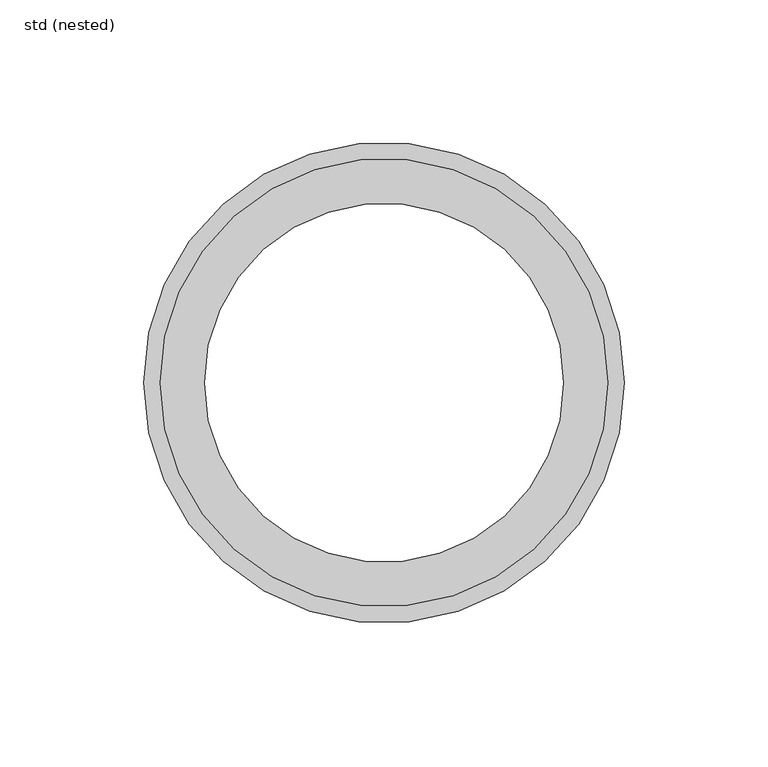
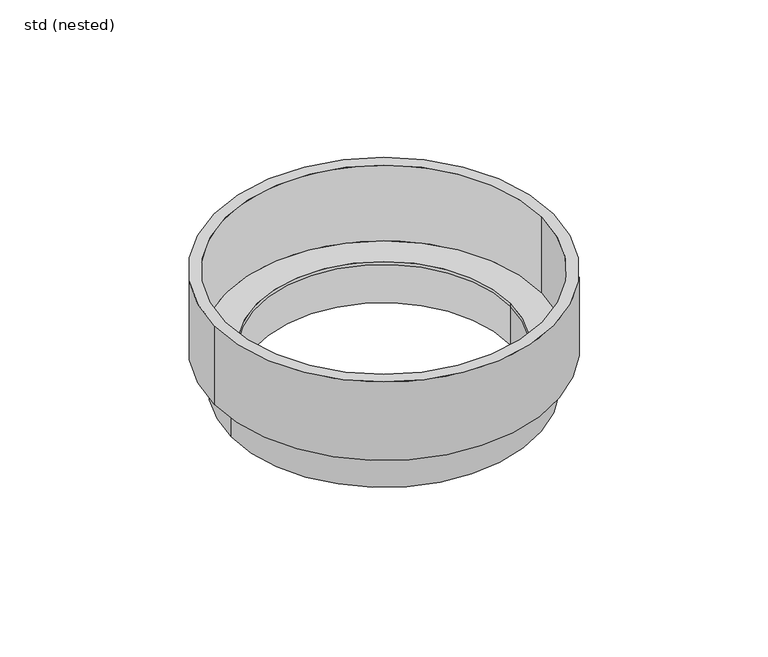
"""IFC4 building model written with IfcOpenShell, lengths in millimetres: sanitary terminal geometry, ZZZ_do not use_PF_CI_WPB_extension ring for Passavant Spin_ACO : std (nested)."""

from ifc_helpers import new_model, si_unit, frame, origin, origin_with_axes, place, context, project, spatial, polyline, circle_curve, source, transform, mapped, element, save
from ifc_brep_helpers import plane_surface, cylinder_surface, revolved_surface, advanced_brep


def std_nested_0d2efb1d(model_context):
    return source(origin(), model_context, "Body", "AdvancedBrep", [
        advanced_brep(
        [(-78.0, 0.0, -39.5), (78.0, 0.0, -39.5), (-62.5, 0.0, -39.5), (62.5, 0.0, -39.5), (-83.735, 0.0, -41.0), (83.735, 0.0, -41.0), (-75.25, 0.0, -41.0), (75.25, 0.0, -41.0), (-62.5, 0.0, -41.0), (62.5, 0.0, -41.0), (-75.25, 0.0, -61.0), (75.25, 0.0, -61.0), (-62.5, 0.0, -61.0), (62.5, 0.0, -61.0), (-83.735, 0.0, 0.0), (83.735, 0.0, 0.0), (-78.0, 0.0, 0.0), (78.0, 0.0, 0.0)],
        [
            (0, 1, circle_curve(frame((0.0, 0.0, -39.5), z_axis=(0.0, 0.0, 1.0), x_axis=(1.0, 0.0, 0.0)), 78.0)),
            (1, 0, circle_curve(frame((0.0, 0.0, -39.5), z_axis=(0.0, 0.0, 1.0), x_axis=(1.0, 0.0, 0.0)), 78.0)),
            (2, 3, circle_curve(frame((0.0, 0.0, -39.5), z_axis=(0.0, 0.0, -1.0), x_axis=(1.0, 0.0, 0.0)), 62.5)),
            (3, 2, circle_curve(frame((0.0, 0.0, -39.5), z_axis=(0.0, 0.0, -1.0), x_axis=(1.0, 0.0, 0.0)), 62.5)),
            (4, 5, circle_curve(frame((0.0, 0.0, -41.0), z_axis=(0.0, 0.0, -1.0), x_axis=(1.0, 0.0, 0.0)), 83.735)),
            (5, 4, circle_curve(frame((0.0, 0.0, -41.0), z_axis=(0.0, 0.0, -1.0), x_axis=(1.0, 0.0, 0.0)), 83.735)),
            (6, 7, circle_curve(frame((0.0, 0.0, -41.0), z_axis=(0.0, 0.0, 1.0), x_axis=(1.0, 0.0, 0.0)), 75.25)),
            (7, 6, circle_curve(frame((0.0, 0.0, -41.0), z_axis=(0.0, 0.0, 1.0), x_axis=(1.0, 0.0, 0.0)), 75.25)),
            (2, 8),
            (8, 9, circle_curve(frame((0.0, 0.0, -41.0), z_axis=(0.0, 0.0, -1.0), x_axis=(1.0, 0.0, 0.0)), 62.5)),
            (9, 3),
            (9, 8, circle_curve(frame((0.0, 0.0, -41.0), z_axis=(0.0, 0.0, -1.0), x_axis=(1.0, 0.0, 0.0)), 62.5)),
            (10, 11, circle_curve(frame((0.0, 0.0, -61.0), z_axis=(0.0, 0.0, -1.0), x_axis=(1.0, 0.0, 0.0)), 75.25)),
            (11, 10, circle_curve(frame((0.0, 0.0, -61.0), z_axis=(0.0, 0.0, -1.0), x_axis=(1.0, 0.0, 0.0)), 75.25)),
            (12, 13, circle_curve(frame((0.0, 0.0, -61.0), z_axis=(0.0, 0.0, 1.0), x_axis=(1.0, 0.0, 0.0)), 62.5)),
            (13, 12, circle_curve(frame((0.0, 0.0, -61.0), z_axis=(0.0, 0.0, 1.0), x_axis=(1.0, 0.0, 0.0)), 62.5)),
            (13, 9),
            (8, 12),
            (11, 7),
            (6, 10),
            (14, 15, circle_curve(origin_with_axes(), 83.735)),
            (15, 14, circle_curve(origin_with_axes(), 83.735)),
            (16, 17, circle_curve(frame((0.0, 0.0, 0.0), z_axis=(0.0, 0.0, -1.0), x_axis=(1.0, 0.0, 0.0)), 78.0)),
            (17, 16, circle_curve(frame((0.0, 0.0, 0.0), z_axis=(0.0, 0.0, -1.0), x_axis=(1.0, 0.0, 0.0)), 78.0)),
            (4, 14),
            (15, 5),
            (17, 1),
            (0, 16),
        ],
        [
            plane_surface(frame((78.0, 0.0, -39.5), z_axis=(0.0, 0.0, 1.0), x_axis=(0.0, 1.0, 0.0))),
            plane_surface(frame((78.0, 0.0, -41.0), z_axis=(0.0, 0.0, -1.0), x_axis=(0.0, -1.0, 0.0))),
            revolved_surface(polyline([(62.5, 0.0, -41.0), (62.5, 0.0, -39.5)]), (0.0, 0.0, 0.0), (0.0, 0.0, -1.0)),
            plane_surface(frame((62.5, 0.0, -61.0), z_axis=(0.0, 0.0, -1.0), x_axis=(0.0, 1.0, 0.0))),
            revolved_surface(polyline([(62.5, 0.0, -61.0), (62.5, 0.0, -41.0)]), (0.0, 0.0, -61.0), (0.0, 0.0, -1.0)),
            cylinder_surface(origin_with_axes(), 75.25),
            plane_surface(frame((83.735, 0.0, 0.0), z_axis=(0.0, 0.0, 1.0), x_axis=(0.0, 1.0, 0.0))),
            cylinder_surface(frame((0.0, 0.0, -41.0), z_axis=(0.0, 0.0, 1.0), x_axis=(1.0, 0.0, 0.0)), 83.735),
            revolved_surface(polyline([(78.0, 0.0, -39.5), (78.0, 0.0, 0.0)]), (0.0, 0.0, 0.0), (0.0, 0.0, -1.0)),
        ],
        [
            (0, [[1, 2], [3, 4]]),
            (1, [[5, 6], [7, 8]]),
            (2, [[-3, 9, 10, 11]]),
            (2, [[-4, -11, 12, -9]]),
            (3, [[13, 14], [15, 16]]),
            (4, [[-16, 17, -10, 18]]),
            (4, [[-15, -18, -12, -17]]),
            (5, [[-14, 19, -7, 20]]),
            (5, [[-13, -20, -8, -19]]),
            (6, [[21, 22], [23, 24]]),
            (7, [[-5, 25, -22, 26]]),
            (7, [[-6, -26, -21, -25]]),
            (8, [[-24, 27, -1, 28]]),
            (8, [[-23, -28, -2, -27]]),
        ],
    ),
    ])


if __name__ == "__main__":
    model = new_model("IFC4")
    model_context = context("Model", 3, world=origin())
    ifc_project = project(units=[si_unit("LENGTHUNIT", "METRE", prefix="MILLI")], contexts=[model_context])
    site = spatial("IfcSite", under=ifc_project)
    building = spatial("IfcBuilding", under=site)
    placement = place(None, origin())
    std_nested_shape = std_nested_0d2efb1d(model_context)
    element("IfcSanitaryTerminal", 1, ObjectType="ZZZ_do not use_PF_CI_WPB_extension ring for Passavant Spin_ACO : std (nested)", at=placement, inside=building, context=model_context, shape_type="MappedRepresentation", body=[
        mapped(std_nested_shape, transform((0.0, 0.0, 0.0), x_axis=(1.0, 0.0, 0.0), y_axis=(0.0, 1.0, 0.0), z_axis=(0.0, 0.0, 1.0))),
    ])
    save(model, "model.ifc")
